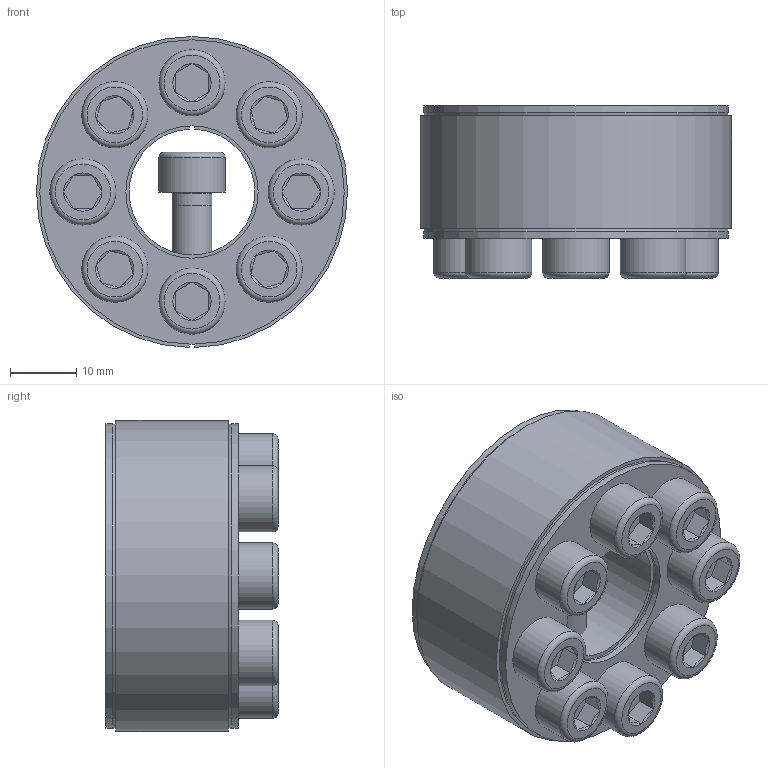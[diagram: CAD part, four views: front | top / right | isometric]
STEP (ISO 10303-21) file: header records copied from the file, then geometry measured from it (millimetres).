
FILE_DESCRIPTION( ( 'Unknown' ), '1' );
FILE_NAME( 'C:/Dokumente und Einstellungen/Sven/Desktop/homepage/cad - homepage/KBS40/KBS 40 - 19 x 47.stp', 'Unknown', ( 'Unknown' ), ( 'Unknown' ), 'XStep 1.0', 'Unknown', ' ' );
FILE_SCHEMA( ( 'automotive_design' ) );
Length unit declared in the file: millimetre
Products named in the file (10): Assem1; KBS 40 19x47; ISO 4762 M6x18; ISO 4762 M6x18-oa0; ISO 4762 M6x18-oa1; ISO 4762 M6x18-oa2; ISO 4762 M6x18-oa3; ISO 4762 M6x18-oa4; ISO 4762 M6x18-oa5; ISO 4762 M6x18-oa6
Bounding box: 47 x 26 x 47 mm (x, y, z)
Surface area: 31242.9 mm2
Topology: 18 solids, 18 shells, 476 faces, 892 edges, 516 vertices
Faces by surface type: plane 232, cone 120, cylinder 92, torus 32
Full cylindrical faces by diameter (mm): 5 x16, 6 x48, 10 x16, 20 x4, 46 x4
Entity records: 5975 total; most frequent: CARTESIAN_POINT 1212, DIRECTION 976, ORIENTED_EDGE 712, AXIS2_PLACEMENT_3D 420, EDGE_LOOP 360, EDGE_CURVE 356, FACE_OUTER_BOUND 298, VERTEX_POINT 240
